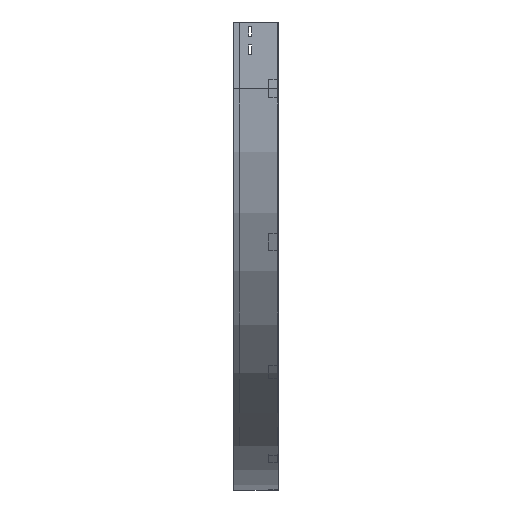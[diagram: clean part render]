
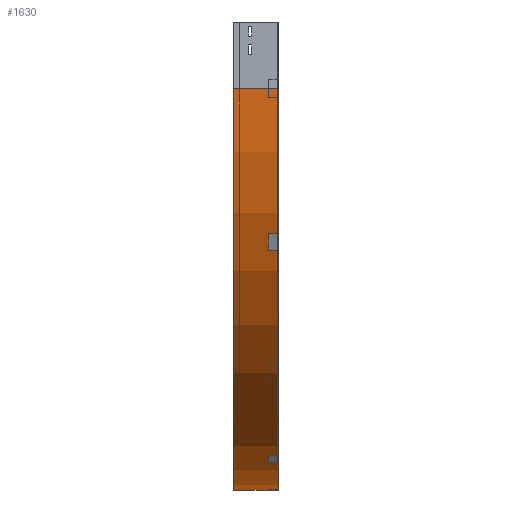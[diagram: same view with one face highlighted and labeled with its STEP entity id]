
A CAD part, left-side view. The second image highlights one B-rep face of the part: STEP entity #1630.
In plain terms, the highlighted cylindrical face has radius 900 mm (diameter 1800 mm), a partial arc.
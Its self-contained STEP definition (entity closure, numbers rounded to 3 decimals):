
#68 = CYLINDRICAL_SURFACE ( 'NONE', #2040, 900. ) ;
#85 = FACE_OUTER_BOUND ( 'NONE', #615, .T. ) ;
#136 = CARTESIAN_POINT ( 'NONE',  ( 900., 100., -150. ) ) ;
#170 = VERTEX_POINT ( 'NONE', #1382 ) ;
#239 = LINE ( 'NONE', #1738, #2317 ) ;
#525 = EDGE_CURVE ( 'NONE', #170, #1029, #1602, .T. ) ;
#599 = VERTEX_POINT ( 'NONE', #2374 ) ;
#615 = EDGE_LOOP ( 'NONE', ( #3452, #2183, #2039, #1771 ) ) ;
#821 = DIRECTION ( 'NONE',  ( -1., 0., 0. ) ) ;
#989 = EDGE_CURVE ( 'NONE', #599, #1528, #2603, .T. ) ;
#1029 = VERTEX_POINT ( 'NONE', #2607 ) ;
#1251 = CARTESIAN_POINT ( 'NONE',  ( 900., 0., -1050. ) ) ;
#1270 = CARTESIAN_POINT ( 'NONE',  ( 0., 0., -150. ) ) ;
#1382 = CARTESIAN_POINT ( 'NONE',  ( 0., 100., -150. ) ) ;
#1394 = DIRECTION ( 'NONE',  ( 0., -1., 0. ) ) ;
#1470 = CARTESIAN_POINT ( 'NONE',  ( 900., 0., -150. ) ) ;
#1491 = DIRECTION ( 'NONE',  ( 0., -1., 0. ) ) ;
#1528 = VERTEX_POINT ( 'NONE', #1251 ) ;
#1602 = CIRCLE ( 'NONE', #2486, 900. ) ;
#1612 = EDGE_CURVE ( 'NONE', #170, #599, #3297, .T. ) ;
#1620 = DIRECTION ( 'NONE',  ( -1., 0., 0. ) ) ;
#1630 = ADVANCED_FACE ( 'NONE', ( #85 ), #68, .T. ) ;
#1738 = CARTESIAN_POINT ( 'NONE',  ( 900., 0., -1050. ) ) ;
#1771 = ORIENTED_EDGE ( 'NONE', *, *, #2974, .T. ) ;
#1873 = DIRECTION ( 'NONE',  ( 0., -1., 0. ) ) ;
#2039 = ORIENTED_EDGE ( 'NONE', *, *, #525, .T. ) ;
#2040 = AXIS2_PLACEMENT_3D ( 'NONE', #2435, #2993, #3059 ) ;
#2090 = DIRECTION ( 'NONE',  ( 0., -1., 0. ) ) ;
#2183 = ORIENTED_EDGE ( 'NONE', *, *, #1612, .F. ) ;
#2317 = VECTOR ( 'NONE', #2090, 1000. ) ;
#2374 = CARTESIAN_POINT ( 'NONE',  ( 0., 0., -150. ) ) ;
#2435 = CARTESIAN_POINT ( 'NONE',  ( 900., 0., -150. ) ) ;
#2486 = AXIS2_PLACEMENT_3D ( 'NONE', #136, #1394, #1620 ) ;
#2547 = AXIS2_PLACEMENT_3D ( 'NONE', #1470, #1491, #821 ) ;
#2603 = CIRCLE ( 'NONE', #2547, 900. ) ;
#2607 = CARTESIAN_POINT ( 'NONE',  ( 900., 100., -1050. ) ) ;
#2718 = VECTOR ( 'NONE', #1873, 1000. ) ;
#2974 = EDGE_CURVE ( 'NONE', #1029, #1528, #239, .T. ) ;
#2993 = DIRECTION ( 'NONE',  ( 0., -1., 0. ) ) ;
#3059 = DIRECTION ( 'NONE',  ( 0., 0., -1. ) ) ;
#3297 = LINE ( 'NONE', #1270, #2718 ) ;
#3452 = ORIENTED_EDGE ( 'NONE', *, *, #989, .F. ) ;
